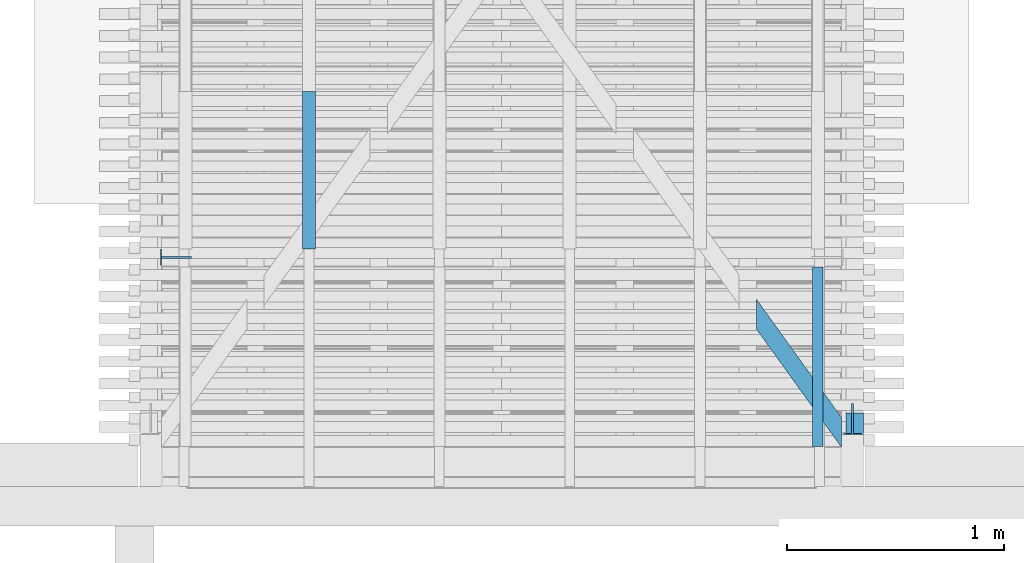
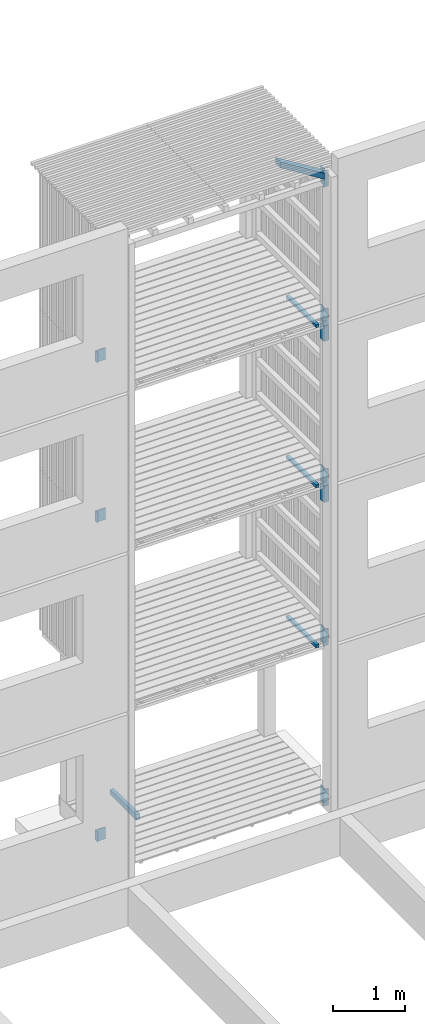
# One storey, part 172 of 182: 15 beams.
"""IFC2X3 building model written with IfcOpenShell, lengths in metres."""

from ifc_helpers import new_model, si_unit, frame, origin, place, context, project, spatial, faceted_brep, element, save


model = new_model("IFC2X3")

# Units and contexts
model_context = context("Model", 3, precision=1e-06, world=origin())
ifc_project = project(units=[si_unit("LENGTHUNIT", "METRE"), si_unit("PLANEANGLEUNIT", "RADIAN")], contexts=[model_context])

# Site, building, storey
site = spatial("IfcSite", under=ifc_project, CompositionType="ELEMENT")
building = spatial("IfcBuilding", under=site, CompositionType="ELEMENT")
storey = spatial("IfcBuildingStorey", under=building, Name="vs", CompositionType="ELEMENT", Elevation=-0.85)

# Beams
placement = place(None, origin())
beam_1_placement = place(placement, frame((46.30540135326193, 5.160077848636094, 7.576188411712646), z_axis=(0.0, 1.0, 0.0), x_axis=(0.0, 0.0, 1.0)))
element("IfcBeam", 1, at=beam_1_placement, inside=storey, Name="Support bardage", context=model_context, shape_type="Brep", body=[
    faceted_brep([(0.248811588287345, 0.039999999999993, -0.050000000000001), (0.248811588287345, 0.039999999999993, 0.05), (0.248811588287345, -0.04000000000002, 0.05), (0.248811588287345, -0.04000000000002, -0.050000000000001), (0.248811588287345, 0.039999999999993, -0.050000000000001), (0.248811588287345, -0.04000000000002, -0.050000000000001), (0.0, -0.04000000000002, -0.050000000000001), (0.0, 0.039999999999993, -0.050000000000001), (0.0, -0.04000000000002, -0.050000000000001), (0.248811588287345, -0.04000000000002, -0.050000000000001), (0.248811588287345, -0.04000000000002, 0.05), (0.0, -0.04000000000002, 0.05), (0.0, -0.04000000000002, 0.05), (0.248811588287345, -0.04000000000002, 0.05), (0.248811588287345, 0.039999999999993, 0.05), (0.0, 0.039999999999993, 0.05), (0.0, 0.039999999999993, 0.05), (0.248811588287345, 0.039999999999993, 0.05), (0.248811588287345, 0.039999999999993, -0.050000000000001), (0.0, 0.039999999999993, -0.050000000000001), (0.0, -0.04000000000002, 0.05), (0.0, 0.039999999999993, 0.05), (0.0, 0.039999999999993, -0.050000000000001), (0.0, -0.04000000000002, -0.050000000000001)], [[[0, 1, 2, 3]], [[4, 5, 6, 7]], [[8, 9, 10, 11]], [[12, 13, 14, 15]], [[16, 17, 18, 19]], [[20, 21, 22, 23]]]),
])
beam_2_placement = place(placement, frame((46.13540135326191, 5.055077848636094, 5.217999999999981), z_axis=(0.0, 0.0, 1.0), x_axis=(0.0, 1.0, 0.0)))
element("IfcBeam", 2, at=beam_2_placement, inside=storey, Name="Calage", context=model_context, shape_type="Brep", body=[
    faceted_brep([(-1e-15, -0.025000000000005, 0.024999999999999), (0.824999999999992, -0.025000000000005, 0.024999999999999), (0.824999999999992, 0.024999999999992, 0.024999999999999), (-1e-15, 0.024999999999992, 0.024999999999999), (-1e-15, 0.024999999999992, 0.024999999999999), (0.824999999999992, 0.024999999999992, 0.024999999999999), (0.824999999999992, 0.024999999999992, -0.025), (-1e-15, 0.024999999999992, -0.025), (0.824999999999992, 0.024999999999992, 0.024999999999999), (0.824999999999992, -0.025000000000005, 0.024999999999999), (0.824999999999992, -0.025000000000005, -0.025), (0.824999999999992, 0.024999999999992, -0.025), (-1e-15, -0.025000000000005, -0.025), (0.824999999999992, -0.025000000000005, -0.025), (0.824999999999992, -0.025000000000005, 0.024999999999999), (-1e-15, -0.025000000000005, 0.024999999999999), (-1e-15, 0.024999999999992, -0.025), (0.824999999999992, 0.024999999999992, -0.025), (0.824999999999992, -0.025000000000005, -0.025), (-1e-15, -0.025000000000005, -0.025), (-1e-15, 0.024999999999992, 0.024999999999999), (-1e-15, 0.024999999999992, -0.025), (-1e-15, -0.025000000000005, -0.025), (-1e-15, -0.025000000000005, 0.024999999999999)], [[[0, 1, 2, 3]], [[4, 5, 6, 7]], [[8, 9, 10, 11]], [[12, 13, 14, 15]], [[16, 17, 18, 19]], [[20, 21, 22, 23]]]),
])
beam_3_placement = place(placement, frame((46.13540135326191, 5.055077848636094, 7.917999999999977), z_axis=(0.0, 0.0, 1.0), x_axis=(1.8e-14, 1.0, 0.0)))
element("IfcBeam", 3, at=beam_3_placement, inside=storey, Name="Calage", context=model_context, shape_type="Brep", body=[
    faceted_brep([(0.0, -0.025000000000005, 0.024999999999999), (0.824999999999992, -0.02499999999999, 0.024999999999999), (0.824999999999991, 0.025000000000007, 0.024999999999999), (-1e-15, 0.024999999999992, 0.024999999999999), (-1e-15, 0.024999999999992, 0.024999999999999), (0.824999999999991, 0.025000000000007, 0.024999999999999), (0.824999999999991, 0.025000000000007, -0.025), (-1e-15, 0.024999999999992, -0.025), (0.824999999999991, 0.025000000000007, 0.024999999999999), (0.824999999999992, -0.02499999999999, 0.024999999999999), (0.824999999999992, -0.02499999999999, -0.025), (0.824999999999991, 0.025000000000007, -0.025), (0.0, -0.025000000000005, -0.025), (0.824999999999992, -0.02499999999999, -0.025), (0.824999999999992, -0.02499999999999, 0.024999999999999), (0.0, -0.025000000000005, 0.024999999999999), (-1e-15, 0.024999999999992, -0.025), (0.824999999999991, 0.025000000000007, -0.025), (0.824999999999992, -0.02499999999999, -0.025), (0.0, -0.025000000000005, -0.025), (-1e-15, 0.024999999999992, 0.024999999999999), (-1e-15, 0.024999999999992, -0.025), (0.0, -0.025000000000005, -0.025), (0.0, -0.025000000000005, 0.024999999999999)], [[[0, 1, 2, 3]], [[4, 5, 6, 7]], [[8, 9, 10, 11]], [[12, 13, 14, 15]], [[16, 17, 18, 19]], [[20, 21, 22, 23]]]),
])
beam_4_placement = place(placement, frame((46.25440135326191, 5.181077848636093, 10.314999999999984), z_axis=(0.0, 0.0, 1.0), x_axis=(1.0, 0.0, 0.0)))
element("IfcBeam", 4, at=beam_4_placement, inside=storey, Name="Contre-usinage", context=model_context, shape_type="Brep", body=[
    faceted_brep([(0.037000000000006, -0.065999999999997, -0.140000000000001), (0.037000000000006, 0.071, -0.140000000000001), (0.045000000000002, 0.071, -0.140000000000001), (0.045000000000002, -0.065999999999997, -0.140000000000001), (0.082000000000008, -0.066000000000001, -0.140000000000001), (0.082000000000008, -0.071, -0.140000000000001), (0.0, -0.071, -0.140000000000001), (0.0, -0.066000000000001, -0.140000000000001), (0.045000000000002, 0.071, -0.140000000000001), (0.037000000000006, 0.071, -0.140000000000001), (0.037000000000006, 0.071, 0.140000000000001), (0.045000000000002, 0.071, 0.140000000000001), (0.045000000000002, -0.066000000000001, 0.140000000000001), (0.045000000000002, -0.065999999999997, -0.140000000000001), (0.045000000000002, 0.071, -0.140000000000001), (0.045000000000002, 0.071, 0.140000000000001), (0.082000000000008, -0.066000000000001, -0.140000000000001), (0.045000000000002, -0.065999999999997, -0.140000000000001), (0.045000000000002, -0.066000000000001, 0.140000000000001), (0.082000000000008, -0.066000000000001, 0.140000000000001), (0.082000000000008, -0.071, -0.140000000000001), (0.082000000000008, -0.066000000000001, -0.140000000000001), (0.082000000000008, -0.066000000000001, 0.140000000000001), (0.082000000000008, -0.071, 0.140000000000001), (0.0, -0.071, -0.140000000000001), (0.082000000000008, -0.071, -0.140000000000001), (0.082000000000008, -0.071, 0.140000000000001), (0.0, -0.071, 0.140000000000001), (0.0, -0.066000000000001, -0.140000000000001), (0.0, -0.071, -0.140000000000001), (0.0, -0.071, 0.140000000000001), (0.0, -0.066000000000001, 0.140000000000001), (0.037000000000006, -0.065999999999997, -0.140000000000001), (0.0, -0.066000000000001, -0.140000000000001), (0.0, -0.066000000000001, 0.140000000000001), (0.037000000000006, -0.066000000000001, 0.140000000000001), (0.037000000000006, 0.071, 0.140000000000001), (0.037000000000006, 0.071, -0.140000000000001), (0.037000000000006, -0.065999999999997, -0.140000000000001), (0.037000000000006, -0.066000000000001, 0.140000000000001), (0.082000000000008, -0.066000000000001, 0.140000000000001), (0.045000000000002, -0.066000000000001, 0.140000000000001), (0.045000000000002, 0.071, 0.140000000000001), (0.037000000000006, 0.071, 0.140000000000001), (0.037000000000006, -0.066000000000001, 0.140000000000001), (0.0, -0.066000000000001, 0.140000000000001), (0.0, -0.071, 0.140000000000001), (0.082000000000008, -0.071, 0.140000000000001)], [[[0, 1, 2, 3, 4, 5, 6, 7]], [[8, 9, 10, 11]], [[12, 13, 14, 15]], [[16, 17, 18, 19]], [[20, 21, 22, 23]], [[24, 25, 26, 27]], [[28, 29, 30, 31]], [[32, 33, 34, 35]], [[36, 37, 38, 39]], [[40, 41, 42, 43, 44, 45, 46, 47]]]),
])
beam_5_placement = place(placement, frame((43.18140135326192, 5.925077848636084, -0.243899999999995), z_axis=(1.0, 0.0, 0.0), x_axis=(0.0, 0.0, 1.0)))
element("IfcBeam", 5, at=beam_5_placement, inside=storey, Name="Contre-usinage", context=model_context, shape_type="Brep", body=[
    faceted_brep([(0.2, 0.004000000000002, -0.066000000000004), (0.2, -0.004000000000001, -0.066000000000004), (0.175, -0.004000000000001, -0.066000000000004), (0.175, 0.004000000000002, -0.066000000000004), (0.175, -0.004000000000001, -0.066000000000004), (0.0, -0.004000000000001, -0.066000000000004), (0.0, -0.038, -0.066000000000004), (0.175, -0.038, -0.066000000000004), (0.175, 0.038000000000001, -0.066000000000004), (0.0, 0.038000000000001, -0.066000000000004), (0.0, 0.004000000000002, -0.066000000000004), (0.175, 0.004000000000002, -0.066000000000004), (0.2, 0.004000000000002, -0.066000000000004), (0.175, 0.004000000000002, -0.066000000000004), (0.0, 0.004000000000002, -0.066000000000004), (0.0, 0.004000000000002, 0.070999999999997), (0.2, 0.004000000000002, 0.070999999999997), (0.2, 0.004000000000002, 0.070999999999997), (0.0, 0.004000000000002, 0.070999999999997), (0.0, -0.004000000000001, 0.070999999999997), (0.2, -0.004000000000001, 0.070999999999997), (0.175, -0.038, -0.070999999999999), (0.0, -0.038, -0.070999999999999), (0.0, 0.038000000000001, -0.070999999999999), (0.175, 0.038000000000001, -0.070999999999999), (0.2, -0.004000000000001, -0.066000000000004), (0.2, 0.004000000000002, -0.066000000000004), (0.2, 0.004000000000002, 0.070999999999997), (0.2, -0.004000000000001, 0.070999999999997), (0.2, -0.004000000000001, 0.070999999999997), (0.0, -0.004000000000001, 0.070999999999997), (0.0, -0.004000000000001, -0.066000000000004), (0.175, -0.004000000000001, -0.066000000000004), (0.2, -0.004000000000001, -0.066000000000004), (0.175, 0.038000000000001, -0.066000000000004), (0.175, 0.004000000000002, -0.066000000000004), (0.175, -0.004000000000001, -0.066000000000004), (0.175, -0.038, -0.066000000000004), (0.175, -0.038, -0.070999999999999), (0.175, 0.038000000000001, -0.070999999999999), (0.0, -0.038, -0.066000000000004), (0.0, -0.004000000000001, -0.066000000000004), (0.0, -0.004000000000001, 0.070999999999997), (0.0, 0.004000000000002, 0.070999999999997), (0.0, 0.004000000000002, -0.066000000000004), (0.0, 0.038000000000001, -0.066000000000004), (0.0, 0.038000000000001, -0.070999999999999), (0.0, -0.038, -0.070999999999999), (0.175, -0.038, -0.070999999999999), (0.175, -0.038, -0.066000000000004), (0.0, -0.038, -0.066000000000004), (0.0, -0.038, -0.070999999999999), (0.175, 0.038000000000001, -0.066000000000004), (0.175, 0.038000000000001, -0.070999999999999), (0.0, 0.038000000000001, -0.070999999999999), (0.0, 0.038000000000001, -0.066000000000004)], [[[0, 1, 2, 3]], [[4, 5, 6, 7]], [[8, 9, 10, 11]], [[12, 13, 14, 15, 16]], [[17, 18, 19, 20]], [[21, 22, 23, 24]], [[25, 26, 27, 28]], [[29, 30, 31, 32, 33]], [[34, 35, 36, 37, 38, 39]], [[40, 41, 42, 43, 44, 45, 46, 47]], [[48, 49, 50, 51]], [[52, 53, 54, 55]]]),
])
beam_6_placement = place(placement, frame((43.18140135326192, 5.925077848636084, 7.839999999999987), z_axis=(1.0, 0.0, 0.0), x_axis=(0.0, 0.0, 1.0)))
element("IfcBeam", 6, at=beam_6_placement, inside=storey, Name="Contre-usinage", context=model_context, shape_type="Brep", body=[
    faceted_brep([(0.200000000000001, 0.004000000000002, -0.066000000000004), (0.200000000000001, -0.004000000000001, -0.066000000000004), (0.175000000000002, -0.004000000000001, -0.066000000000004), (0.175000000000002, 0.004000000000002, -0.066000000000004), (0.175000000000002, -0.004000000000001, -0.066000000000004), (2e-15, -0.004000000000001, -0.066000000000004), (2e-15, -0.038, -0.066000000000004), (0.175000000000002, -0.038, -0.066000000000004), (0.175000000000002, 0.038000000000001, -0.066000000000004), (2e-15, 0.038000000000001, -0.066000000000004), (2e-15, 0.004000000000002, -0.066000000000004), (0.175000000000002, 0.004000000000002, -0.066000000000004), (0.200000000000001, 0.004000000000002, -0.066000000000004), (0.175000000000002, 0.004000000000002, -0.066000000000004), (2e-15, 0.004000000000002, -0.066000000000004), (2e-15, 0.004000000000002, 0.070999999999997), (0.200000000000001, 0.004000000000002, 0.070999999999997), (0.200000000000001, 0.004000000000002, 0.070999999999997), (2e-15, 0.004000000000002, 0.070999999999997), (2e-15, -0.004000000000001, 0.070999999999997), (0.200000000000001, -0.004000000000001, 0.070999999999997), (0.175000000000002, -0.038, -0.070999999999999), (2e-15, -0.038, -0.070999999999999), (2e-15, 0.038000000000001, -0.070999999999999), (0.175000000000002, 0.038000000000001, -0.070999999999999), (0.175000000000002, 0.038000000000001, -0.066000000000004), (0.175000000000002, 0.004000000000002, -0.066000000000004), (0.175000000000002, -0.004000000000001, -0.066000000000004), (0.175000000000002, -0.038, -0.066000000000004), (0.175000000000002, -0.038, -0.070999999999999), (0.175000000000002, 0.038000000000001, -0.070999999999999), (0.200000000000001, -0.004000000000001, 0.070999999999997), (2e-15, -0.004000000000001, 0.070999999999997), (2e-15, -0.004000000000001, -0.066000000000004), (0.175000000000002, -0.004000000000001, -0.066000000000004), (0.200000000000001, -0.004000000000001, -0.066000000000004), (0.200000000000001, -0.004000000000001, -0.066000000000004), (0.200000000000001, 0.004000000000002, -0.066000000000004), (0.200000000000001, 0.004000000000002, 0.070999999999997), (0.200000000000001, -0.004000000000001, 0.070999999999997), (0.175000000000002, -0.038, -0.070999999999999), (0.175000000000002, -0.038, -0.066000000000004), (2e-15, -0.038, -0.066000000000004), (2e-15, -0.038, -0.070999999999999), (2e-15, -0.038, -0.066000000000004), (2e-15, -0.004000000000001, -0.066000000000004), (2e-15, -0.004000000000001, 0.070999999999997), (2e-15, 0.004000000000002, 0.070999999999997), (2e-15, 0.004000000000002, -0.066000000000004), (2e-15, 0.038000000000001, -0.066000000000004), (2e-15, 0.038000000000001, -0.070999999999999), (2e-15, -0.038, -0.070999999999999), (0.175000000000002, 0.038000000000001, -0.066000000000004), (0.175000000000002, 0.038000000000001, -0.070999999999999), (2e-15, 0.038000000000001, -0.070999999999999), (2e-15, 0.038000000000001, -0.066000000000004)], [[[0, 1, 2, 3]], [[4, 5, 6, 7]], [[8, 9, 10, 11]], [[12, 13, 14, 15, 16]], [[17, 18, 19, 20]], [[21, 22, 23, 24]], [[25, 26, 27, 28, 29, 30]], [[31, 32, 33, 34, 35]], [[36, 37, 38, 39]], [[40, 41, 42, 43]], [[44, 45, 46, 47, 48, 49, 50, 51]], [[52, 53, 54, 55]]]),
])
beam_7_placement = place(placement, frame((43.18140135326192, 5.925077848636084, 5.139999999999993), z_axis=(1.0, 0.0, 0.0), x_axis=(0.0, 0.0, 1.0)))
element("IfcBeam", 7, at=beam_7_placement, inside=storey, Name="Contre-usinage", context=model_context, shape_type="Brep", body=[
    faceted_brep([(0.2, 0.004000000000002, -0.066000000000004), (0.2, -0.004000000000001, -0.066000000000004), (0.174999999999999, -0.004000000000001, -0.066000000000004), (0.174999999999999, 0.004000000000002, -0.066000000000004), (0.174999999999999, -0.004000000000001, -0.066000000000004), (0.0, -0.004000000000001, -0.066000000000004), (0.0, -0.038, -0.066000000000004), (0.174999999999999, -0.038, -0.066000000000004), (0.174999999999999, 0.038000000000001, -0.066000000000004), (0.0, 0.038000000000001, -0.066000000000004), (0.0, 0.004000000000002, -0.066000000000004), (0.174999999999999, 0.004000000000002, -0.066000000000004), (0.2, 0.004000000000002, -0.066000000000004), (0.174999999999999, 0.004000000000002, -0.066000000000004), (0.0, 0.004000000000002, -0.066000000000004), (0.0, 0.004000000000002, 0.070999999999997), (0.2, 0.004000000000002, 0.070999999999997), (0.2, 0.004000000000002, 0.070999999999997), (0.0, 0.004000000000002, 0.070999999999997), (0.0, -0.004000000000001, 0.070999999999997), (0.2, -0.004000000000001, 0.070999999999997), (0.174999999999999, -0.038, -0.070999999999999), (0.0, -0.038, -0.070999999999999), (0.0, 0.038000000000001, -0.070999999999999), (0.174999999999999, 0.038000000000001, -0.070999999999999), (0.174999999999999, 0.038000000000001, -0.066000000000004), (0.174999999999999, 0.004000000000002, -0.066000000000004), (0.174999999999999, -0.004000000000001, -0.066000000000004), (0.174999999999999, -0.038, -0.066000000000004), (0.174999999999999, -0.038, -0.070999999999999), (0.174999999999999, 0.038000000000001, -0.070999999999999), (0.2, -0.004000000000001, 0.070999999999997), (0.0, -0.004000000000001, 0.070999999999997), (0.0, -0.004000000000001, -0.066000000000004), (0.174999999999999, -0.004000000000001, -0.066000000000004), (0.2, -0.004000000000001, -0.066000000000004), (0.2, -0.004000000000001, -0.066000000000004), (0.2, 0.004000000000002, -0.066000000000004), (0.2, 0.004000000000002, 0.070999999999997), (0.2, -0.004000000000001, 0.070999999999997), (0.174999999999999, -0.038, -0.070999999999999), (0.174999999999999, -0.038, -0.066000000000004), (0.0, -0.038, -0.066000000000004), (0.0, -0.038, -0.070999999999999), (0.0, -0.038, -0.066000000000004), (0.0, -0.004000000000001, -0.066000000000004), (0.0, -0.004000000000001, 0.070999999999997), (0.0, 0.004000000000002, 0.070999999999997), (0.0, 0.004000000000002, -0.066000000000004), (0.0, 0.038000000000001, -0.066000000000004), (0.0, 0.038000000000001, -0.070999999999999), (0.0, -0.038, -0.070999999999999), (0.174999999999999, 0.038000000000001, -0.066000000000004), (0.174999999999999, 0.038000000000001, -0.070999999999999), (0.0, 0.038000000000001, -0.070999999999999), (0.0, 0.038000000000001, -0.066000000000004)], [[[0, 1, 2, 3]], [[4, 5, 6, 7]], [[8, 9, 10, 11]], [[12, 13, 14, 15, 16]], [[17, 18, 19, 20]], [[21, 22, 23, 24]], [[25, 26, 27, 28, 29, 30]], [[31, 32, 33, 34, 35]], [[36, 37, 38, 39]], [[40, 41, 42, 43]], [[44, 45, 46, 47, 48, 49, 50, 51]], [[52, 53, 54, 55]]]),
])
beam_8_placement = place(placement, frame((46.25440135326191, 5.181077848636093, 2.579999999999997), z_axis=(0.0, 0.0, 1.0), x_axis=(1.0, 0.0, 0.0)))
element("IfcBeam", 8, at=beam_8_placement, inside=storey, Name="Contre-usinage", context=model_context, shape_type="Brep", body=[
    faceted_brep([(0.037000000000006, -0.065999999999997, -0.14), (0.037000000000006, 0.071, -0.14), (0.045000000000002, 0.071, -0.14), (0.045000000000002, -0.065999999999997, -0.14), (0.082000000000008, -0.066000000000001, -0.14), (0.082000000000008, -0.071, -0.14), (0.0, -0.071, -0.14), (0.0, -0.066000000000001, -0.14), (0.045000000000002, 0.071, -0.14), (0.037000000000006, 0.071, -0.14), (0.037000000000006, 0.071, 0.14), (0.045000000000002, 0.071, 0.14), (0.045000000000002, -0.066000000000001, 0.14), (0.045000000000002, -0.065999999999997, -0.14), (0.045000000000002, 0.071, -0.14), (0.045000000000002, 0.071, 0.14), (0.082000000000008, -0.066000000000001, -0.14), (0.045000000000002, -0.065999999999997, -0.14), (0.045000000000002, -0.066000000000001, 0.14), (0.082000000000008, -0.066000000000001, 0.14), (0.082000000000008, -0.071, -0.14), (0.082000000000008, -0.066000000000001, -0.14), (0.082000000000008, -0.066000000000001, 0.14), (0.082000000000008, -0.071, 0.14), (0.0, -0.071, -0.14), (0.082000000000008, -0.071, -0.14), (0.082000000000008, -0.071, 0.14), (0.0, -0.071, 0.14), (0.0, -0.066000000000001, -0.14), (0.0, -0.071, -0.14), (0.0, -0.071, 0.14), (0.0, -0.066000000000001, 0.14), (0.037000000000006, -0.065999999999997, -0.14), (0.0, -0.066000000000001, -0.14), (0.0, -0.066000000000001, 0.14), (0.037000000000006, -0.066000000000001, 0.14), (0.037000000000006, 0.071, 0.14), (0.037000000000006, 0.071, -0.14), (0.037000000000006, -0.065999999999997, -0.14), (0.037000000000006, -0.066000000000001, 0.14), (0.082000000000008, -0.066000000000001, 0.14), (0.045000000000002, -0.066000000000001, 0.14), (0.045000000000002, 0.071, 0.14), (0.037000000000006, 0.071, 0.14), (0.037000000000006, -0.066000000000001, 0.14), (0.0, -0.066000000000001, 0.14), (0.0, -0.071, 0.14), (0.082000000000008, -0.071, 0.14)], [[[0, 1, 2, 3, 4, 5, 6, 7]], [[8, 9, 10, 11]], [[12, 13, 14, 15]], [[16, 17, 18, 19]], [[20, 21, 22, 23]], [[24, 25, 26, 27]], [[28, 29, 30, 31]], [[32, 33, 34, 35]], [[36, 37, 38, 39]], [[40, 41, 42, 43, 44, 45, 46, 47]]]),
])
beam_9_placement = place(placement, frame((46.30540135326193, 5.160077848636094, 4.85796194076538), z_axis=(0.0, 1.0, 0.0), x_axis=(0.0, 0.0, 1.0)))
element("IfcBeam", 9, at=beam_9_placement, inside=storey, Name="Support bardage", context=model_context, shape_type="Brep", body=[
    faceted_brep([(0.267038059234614, 0.039999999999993, -0.050000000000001), (0.267038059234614, 0.039999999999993, 0.05), (0.267038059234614, -0.04000000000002, 0.05), (0.267038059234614, -0.04000000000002, -0.050000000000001), (0.267038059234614, 0.039999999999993, -0.050000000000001), (0.267038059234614, -0.04000000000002, -0.050000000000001), (0.0, -0.04000000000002, -0.050000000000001), (0.0, 0.039999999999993, -0.050000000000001), (0.267038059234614, 0.039999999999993, 0.05), (0.267038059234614, 0.039999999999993, -0.050000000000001), (0.0, 0.039999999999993, -0.050000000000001), (0.0, 0.039999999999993, 0.05), (0.0, -0.04000000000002, -0.050000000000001), (0.267038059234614, -0.04000000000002, -0.050000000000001), (0.267038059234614, -0.04000000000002, 0.05), (0.0, -0.04000000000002, 0.05), (0.0, -0.04000000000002, 0.05), (0.267038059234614, -0.04000000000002, 0.05), (0.267038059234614, 0.039999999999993, 0.05), (0.0, 0.039999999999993, 0.05), (0.0, -0.04000000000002, -0.050000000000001), (0.0, -0.04000000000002, 0.05), (0.0, 0.039999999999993, 0.05), (0.0, 0.039999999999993, -0.050000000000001)], [[[0, 1, 2, 3]], [[4, 5, 6, 7]], [[8, 9, 10, 11]], [[12, 13, 14, 15]], [[16, 17, 18, 19]], [[20, 21, 22, 23]]]),
])
beam_10_placement = place(placement, frame((46.13540135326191, 5.055077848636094, 2.517999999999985), z_axis=(0.0, 0.0, 1.0), x_axis=(0.0, 1.0, 0.0)))
element("IfcBeam", 10, at=beam_10_placement, inside=storey, Name="Calage", context=model_context, shape_type="Brep", body=[
    faceted_brep([(-1e-15, -0.025000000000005, 0.025), (0.824999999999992, -0.025000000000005, 0.025), (0.824999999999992, 0.024999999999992, 0.025), (-1e-15, 0.024999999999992, 0.025), (-1e-15, 0.024999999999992, 0.025), (0.824999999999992, 0.024999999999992, 0.025), (0.824999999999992, 0.024999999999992, -0.025), (-1e-15, 0.024999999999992, -0.025), (0.824999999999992, 0.024999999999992, 0.025), (0.824999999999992, -0.025000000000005, 0.025), (0.824999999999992, -0.025000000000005, -0.025), (0.824999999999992, 0.024999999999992, -0.025), (-1e-15, -0.025000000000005, -0.025), (0.824999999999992, -0.025000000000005, -0.025), (0.824999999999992, -0.025000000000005, 0.025), (-1e-15, -0.025000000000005, 0.025), (-1e-15, 0.024999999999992, -0.025), (0.824999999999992, 0.024999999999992, -0.025), (0.824999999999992, -0.025000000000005, -0.025), (-1e-15, -0.025000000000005, -0.025), (-1e-15, 0.024999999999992, 0.025), (-1e-15, 0.024999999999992, -0.025), (-1e-15, -0.025000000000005, -0.025), (-1e-15, -0.025000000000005, 0.025)], [[[0, 1, 2, 3]], [[4, 5, 6, 7]], [[8, 9, 10, 11]], [[12, 13, 14, 15]], [[16, 17, 18, 19]], [[20, 21, 22, 23]]]),
])
beam_11_placement = place(placement, frame((43.79340135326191, 5.965077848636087, -0.091949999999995), z_axis=(0.0, 0.0, 1.0), x_axis=(0.0, 1.0, 0.0)))
element("IfcBeam", 11, at=beam_11_placement, inside=storey, Name="Solive", context=model_context, shape_type="Brep", body=[
    faceted_brep([(0.0, -0.030000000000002, -0.04805), (0.0, 0.030000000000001, -0.04805), (0.725000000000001, 0.030000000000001, -0.04805), (0.725000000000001, -0.030000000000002, -0.04805), (0.725000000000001, -0.030000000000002, 0.033549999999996), (0.0, -0.030000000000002, 0.048049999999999), (0.0, -0.030000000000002, -0.04805), (0.725000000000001, -0.030000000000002, -0.04805), (0.0, -0.030000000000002, 0.048049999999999), (0.725000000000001, -0.030000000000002, 0.033549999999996), (0.725000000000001, 0.030000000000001, 0.033549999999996), (0.0, 0.030000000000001, 0.048049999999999), (0.0, -0.030000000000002, 0.048049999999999), (0.0, 0.030000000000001, 0.048049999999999), (0.0, 0.030000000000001, -0.04805), (0.0, -0.030000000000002, -0.04805), (0.0, 0.030000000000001, -0.04805), (0.0, 0.030000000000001, 0.048049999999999), (0.725000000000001, 0.030000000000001, 0.033549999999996), (0.725000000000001, 0.030000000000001, -0.04805), (0.725000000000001, -0.030000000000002, 0.033549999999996), (0.725000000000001, -0.030000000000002, -0.04805), (0.725000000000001, 0.030000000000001, -0.04805), (0.725000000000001, 0.030000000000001, 0.033549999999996)], [[[0, 1, 2, 3]], [[4, 5, 6, 7]], [[8, 9, 10, 11]], [[12, 13, 14, 15]], [[16, 17, 18, 19]], [[20, 21, 22, 23]]]),
])
beam_12_placement = place(placement, frame((46.25440135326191, 5.181077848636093, 7.979999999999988), z_axis=(0.0, 0.0, 1.0), x_axis=(1.0, 0.0, 0.0)))
element("IfcBeam", 12, at=beam_12_placement, inside=storey, Name="Contre-usinage", context=model_context, shape_type="Brep", body=[
    faceted_brep([(0.037000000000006, -0.065999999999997, -0.14), (0.037000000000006, 0.071, -0.14), (0.045000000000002, 0.071, -0.14), (0.045000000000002, -0.065999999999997, -0.14), (0.082000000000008, -0.066000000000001, -0.14), (0.082000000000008, -0.071, -0.14), (0.0, -0.071, -0.14), (0.0, -0.066000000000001, -0.14), (0.045000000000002, 0.071, -0.14), (0.037000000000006, 0.071, -0.14), (0.037000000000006, 0.071, 0.140000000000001), (0.045000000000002, 0.071, 0.140000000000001), (0.045000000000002, -0.066000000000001, 0.140000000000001), (0.045000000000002, -0.065999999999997, -0.14), (0.045000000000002, 0.071, -0.14), (0.045000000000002, 0.071, 0.140000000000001), (0.082000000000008, -0.066000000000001, -0.14), (0.045000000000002, -0.065999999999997, -0.14), (0.045000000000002, -0.066000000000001, 0.140000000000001), (0.082000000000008, -0.066000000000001, 0.140000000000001), (0.082000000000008, -0.071, -0.14), (0.082000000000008, -0.066000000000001, -0.14), (0.082000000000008, -0.066000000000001, 0.140000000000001), (0.082000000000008, -0.071, 0.140000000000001), (0.0, -0.071, -0.14), (0.082000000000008, -0.071, -0.14), (0.082000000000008, -0.071, 0.140000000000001), (0.0, -0.071, 0.140000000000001), (0.0, -0.066000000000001, -0.14), (0.0, -0.071, -0.14), (0.0, -0.071, 0.140000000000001), (0.0, -0.066000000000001, 0.140000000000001), (0.037000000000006, -0.065999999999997, -0.14), (0.0, -0.066000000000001, -0.14), (0.0, -0.066000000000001, 0.140000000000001), (0.037000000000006, -0.066000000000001, 0.140000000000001), (0.037000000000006, 0.071, 0.140000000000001), (0.037000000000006, 0.071, -0.14), (0.037000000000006, -0.065999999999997, -0.14), (0.037000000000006, -0.066000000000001, 0.140000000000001), (0.082000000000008, -0.066000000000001, 0.140000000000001), (0.045000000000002, -0.066000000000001, 0.140000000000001), (0.045000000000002, 0.071, 0.140000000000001), (0.037000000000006, 0.071, 0.140000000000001), (0.037000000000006, -0.066000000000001, 0.140000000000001), (0.0, -0.066000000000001, 0.140000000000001), (0.0, -0.071, 0.140000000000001), (0.082000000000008, -0.071, 0.140000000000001)], [[[0, 1, 2, 3, 4, 5, 6, 7]], [[8, 9, 10, 11]], [[12, 13, 14, 15]], [[16, 17, 18, 19]], [[20, 21, 22, 23]], [[24, 25, 26, 27]], [[28, 29, 30, 31]], [[32, 33, 34, 35]], [[36, 37, 38, 39]], [[40, 41, 42, 43, 44, 45, 46, 47]]]),
])
beam_13_placement = place(placement, frame((46.27787289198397, 5.073435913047, 10.404999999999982), z_axis=(0.0, 0.0, 1.0), x_axis=(-0.58395161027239, 0.811788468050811, 0.0)))
element("IfcBeam", 13, at=beam_13_placement, inside=storey, Name="Support bardage", context=model_context, shape_type="Brep", body=[
    faceted_brep([(2e-15, 0.040000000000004, -0.050000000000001), (0.111213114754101, -0.039999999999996, -0.049999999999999), (0.111213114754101, -0.039999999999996, 0.050000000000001), (2e-15, 0.040000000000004, 0.050000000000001), (0.111213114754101, -0.039999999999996, -0.049999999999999), (2e-15, 0.040000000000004, -0.050000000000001), (0.670717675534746, 0.04, -0.050000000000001), (0.781930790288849, -0.040000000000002, -0.050000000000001), (0.111213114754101, -0.039999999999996, 0.050000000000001), (0.111213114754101, -0.039999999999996, -0.049999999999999), (0.781930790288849, -0.040000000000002, -0.050000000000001), (0.781930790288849, -0.040000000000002, 0.050000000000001), (2e-15, 0.040000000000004, 0.050000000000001), (0.111213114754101, -0.039999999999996, 0.050000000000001), (0.781930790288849, -0.040000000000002, 0.050000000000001), (0.670717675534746, 0.04, 0.050000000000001), (0.670717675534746, 0.04, -0.050000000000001), (2e-15, 0.040000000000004, -0.050000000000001), (2e-15, 0.040000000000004, 0.050000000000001), (0.670717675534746, 0.04, 0.050000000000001), (0.670717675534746, 0.04, 0.050000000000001), (0.781930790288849, -0.040000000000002, 0.050000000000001), (0.781930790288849, -0.040000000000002, -0.050000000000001), (0.670717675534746, 0.04, -0.050000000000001)], [[[0, 1, 2, 3]], [[4, 5, 6, 7]], [[8, 9, 10, 11]], [[12, 13, 14, 15]], [[16, 17, 18, 19]], [[20, 21, 22, 23]]]),
])
beam_14_placement = place(placement, frame((46.25440135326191, 5.181077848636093, 5.279999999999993), z_axis=(0.0, 0.0, 1.0), x_axis=(1.0, 0.0, 0.0)))
element("IfcBeam", 14, at=beam_14_placement, inside=storey, Name="Contre-usinage", context=model_context, shape_type="Brep", body=[
    faceted_brep([(0.037000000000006, -0.065999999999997, -0.140000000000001), (0.037000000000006, 0.071, -0.140000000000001), (0.045000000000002, 0.071, -0.140000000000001), (0.045000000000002, -0.065999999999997, -0.140000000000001), (0.082000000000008, -0.066000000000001, -0.140000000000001), (0.082000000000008, -0.071, -0.140000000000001), (0.0, -0.071, -0.140000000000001), (0.0, -0.066000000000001, -0.140000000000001), (0.045000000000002, 0.071, -0.140000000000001), (0.037000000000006, 0.071, -0.140000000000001), (0.037000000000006, 0.071, 0.140000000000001), (0.045000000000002, 0.071, 0.140000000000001), (0.045000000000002, -0.066000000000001, 0.140000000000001), (0.045000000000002, -0.065999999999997, -0.140000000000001), (0.045000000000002, 0.071, -0.140000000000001), (0.045000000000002, 0.071, 0.140000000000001), (0.082000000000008, -0.066000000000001, -0.140000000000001), (0.045000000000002, -0.065999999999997, -0.140000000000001), (0.045000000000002, -0.066000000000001, 0.140000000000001), (0.082000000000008, -0.066000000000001, 0.140000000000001), (0.082000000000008, -0.071, -0.140000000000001), (0.082000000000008, -0.066000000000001, -0.140000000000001), (0.082000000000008, -0.066000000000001, 0.140000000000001), (0.082000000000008, -0.071, 0.140000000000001), (0.0, -0.071, -0.140000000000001), (0.082000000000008, -0.071, -0.140000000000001), (0.082000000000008, -0.071, 0.140000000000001), (0.0, -0.071, 0.140000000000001), (0.0, -0.066000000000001, -0.140000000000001), (0.0, -0.071, -0.140000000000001), (0.0, -0.071, 0.140000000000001), (0.0, -0.066000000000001, 0.140000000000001), (0.037000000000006, -0.065999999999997, -0.140000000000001), (0.0, -0.066000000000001, -0.140000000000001), (0.0, -0.066000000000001, 0.140000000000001), (0.037000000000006, -0.066000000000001, 0.140000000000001), (0.037000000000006, 0.071, 0.140000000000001), (0.037000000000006, 0.071, -0.140000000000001), (0.037000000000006, -0.065999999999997, -0.140000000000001), (0.037000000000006, -0.066000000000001, 0.140000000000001), (0.082000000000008, -0.066000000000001, 0.140000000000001), (0.045000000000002, -0.066000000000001, 0.140000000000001), (0.045000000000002, 0.071, 0.140000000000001), (0.037000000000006, 0.071, 0.140000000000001), (0.037000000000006, -0.066000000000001, 0.140000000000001), (0.0, -0.066000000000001, 0.140000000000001), (0.0, -0.071, 0.140000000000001), (0.082000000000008, -0.071, 0.140000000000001)], [[[0, 1, 2, 3, 4, 5, 6, 7]], [[8, 9, 10, 11]], [[12, 13, 14, 15]], [[16, 17, 18, 19]], [[20, 21, 22, 23]], [[24, 25, 26, 27]], [[28, 29, 30, 31]], [[32, 33, 34, 35]], [[36, 37, 38, 39]], [[40, 41, 42, 43, 44, 45, 46, 47]]]),
])
beam_15_placement = place(placement, frame((46.25440135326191, 5.181077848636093, -0.119999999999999), z_axis=(0.0, 0.0, 1.0), x_axis=(1.0, 0.0, 0.0)))
element("IfcBeam", 15, at=beam_15_placement, inside=storey, Name="Contre-usinage", context=model_context, shape_type="Brep", body=[
    faceted_brep([(0.037000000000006, -0.065999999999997, -0.14), (0.037000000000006, 0.071, -0.14), (0.045000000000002, 0.071, -0.14), (0.045000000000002, -0.065999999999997, -0.14), (0.082000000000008, -0.066000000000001, -0.14), (0.082000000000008, -0.071, -0.14), (0.0, -0.071, -0.14), (0.0, -0.066000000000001, -0.14), (0.045000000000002, 0.071, -0.14), (0.037000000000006, 0.071, -0.14), (0.037000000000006, 0.071, 0.14), (0.045000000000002, 0.071, 0.14), (0.045000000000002, -0.066000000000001, 0.14), (0.045000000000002, -0.065999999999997, -0.14), (0.045000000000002, 0.071, -0.14), (0.045000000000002, 0.071, 0.14), (0.082000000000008, -0.066000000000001, -0.14), (0.045000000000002, -0.065999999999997, -0.14), (0.045000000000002, -0.066000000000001, 0.14), (0.082000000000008, -0.066000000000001, 0.14), (0.082000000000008, -0.071, -0.14), (0.082000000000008, -0.066000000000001, -0.14), (0.082000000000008, -0.066000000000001, 0.14), (0.082000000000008, -0.071, 0.14), (0.0, -0.071, -0.14), (0.082000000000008, -0.071, -0.14), (0.082000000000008, -0.071, 0.14), (0.0, -0.071, 0.14), (0.0, -0.066000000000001, -0.14), (0.0, -0.071, -0.14), (0.0, -0.071, 0.14), (0.0, -0.066000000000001, 0.14), (0.037000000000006, -0.065999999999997, -0.14), (0.0, -0.066000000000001, -0.14), (0.0, -0.066000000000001, 0.14), (0.037000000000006, -0.066000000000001, 0.14), (0.037000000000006, 0.071, 0.14), (0.037000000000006, 0.071, -0.14), (0.037000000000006, -0.065999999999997, -0.14), (0.037000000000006, -0.066000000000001, 0.14), (0.082000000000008, -0.066000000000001, 0.14), (0.045000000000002, -0.066000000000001, 0.14), (0.045000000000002, 0.071, 0.14), (0.037000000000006, 0.071, 0.14), (0.037000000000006, -0.066000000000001, 0.14), (0.0, -0.066000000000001, 0.14), (0.0, -0.071, 0.14), (0.082000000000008, -0.071, 0.14)], [[[0, 1, 2, 3, 4, 5, 6, 7]], [[8, 9, 10, 11]], [[12, 13, 14, 15]], [[16, 17, 18, 19]], [[20, 21, 22, 23]], [[24, 25, 26, 27]], [[28, 29, 30, 31]], [[32, 33, 34, 35]], [[36, 37, 38, 39]], [[40, 41, 42, 43, 44, 45, 46, 47]]]),
])

save(model, "model.ifc")
